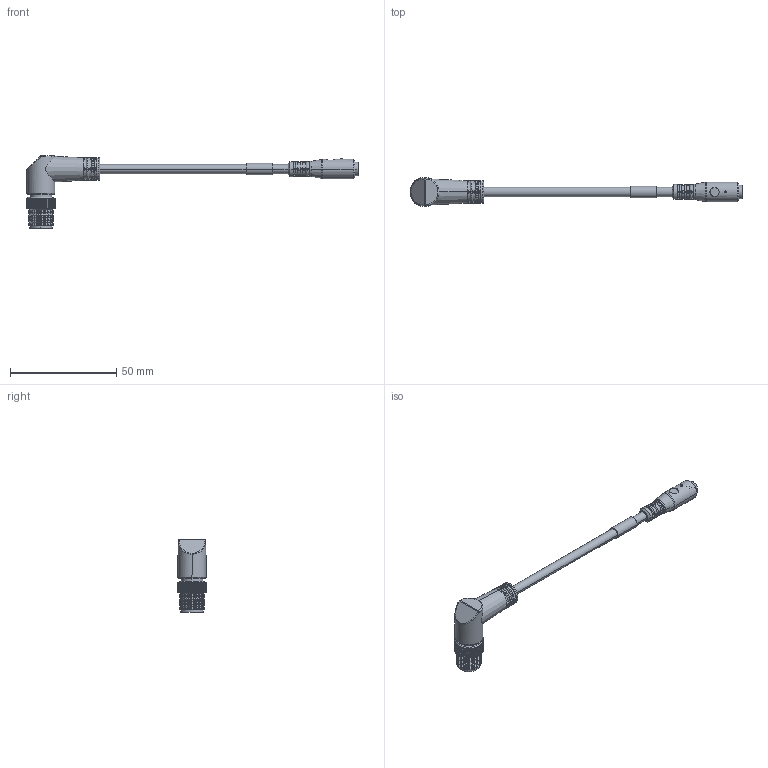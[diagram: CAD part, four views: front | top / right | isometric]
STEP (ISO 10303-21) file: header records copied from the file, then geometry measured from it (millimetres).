
FILE_DESCRIPTION((''),'2;1');
FILE_NAME('889P-S4JBDE-2_ASM','2015-05-12T',('20040676'),('Rockwell Automation'),'PRO/ENGINEER BY PARAMETRIC TECHNOLOGY CORPORATION, 2009140','PRO/ENGINEER BY PARAMETRIC TECHNOLOGY CORPORATION, 2009140','');
FILE_SCHEMA(('CONFIG_CONTROL_DESIGN'));
Length unit declared in the file: inch
Products named in the file (3): 889P-S4JB-2; 889D-E4-RIGHT-ANGLE-MALE; 889P-S4JBDE-2_ASM
Assembly tree (2 placements, depth 2):
  889P-S4JBDE-2_ASM
    889P-S4JB-2
    889D-E4-RIGHT-ANGLE-MALE
Bounding box: 156.55 x 14.01 x 34.29 mm (x, y, z)
Volume: 8768 mm3; surface area: 6235.9 mm2
Topology: 2 solids, 3 shells, 768 faces, 1999 edges, 1258 vertices
Faces by surface type: cylinder 346, plane 297, cone 100, torus 21, bspline 2, sphere 2
Entity records: 24805 total; most frequent: CARTESIAN_POINT 6058, ORIENTED_EDGE 3994, DIRECTION 3893, EDGE_CURVE 1997, AXIS2_PLACEMENT_3D 1489, VERTEX_POINT 1258, VECTOR 915, LINE 915
